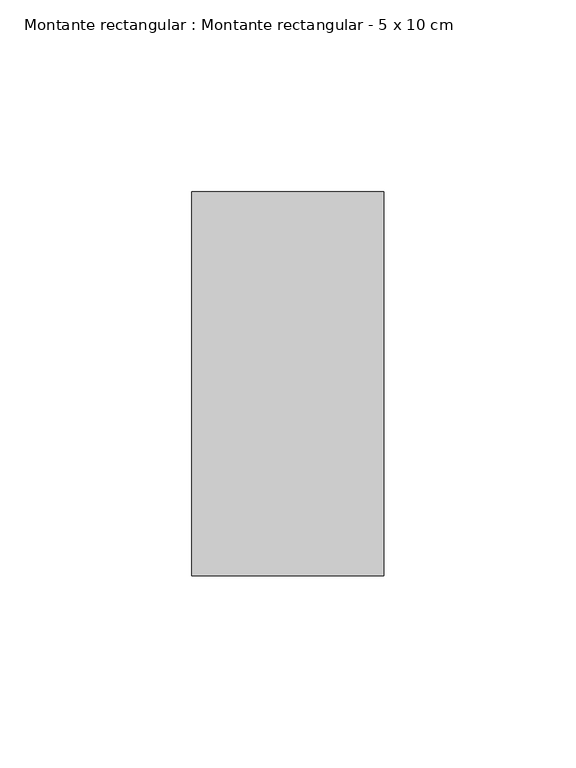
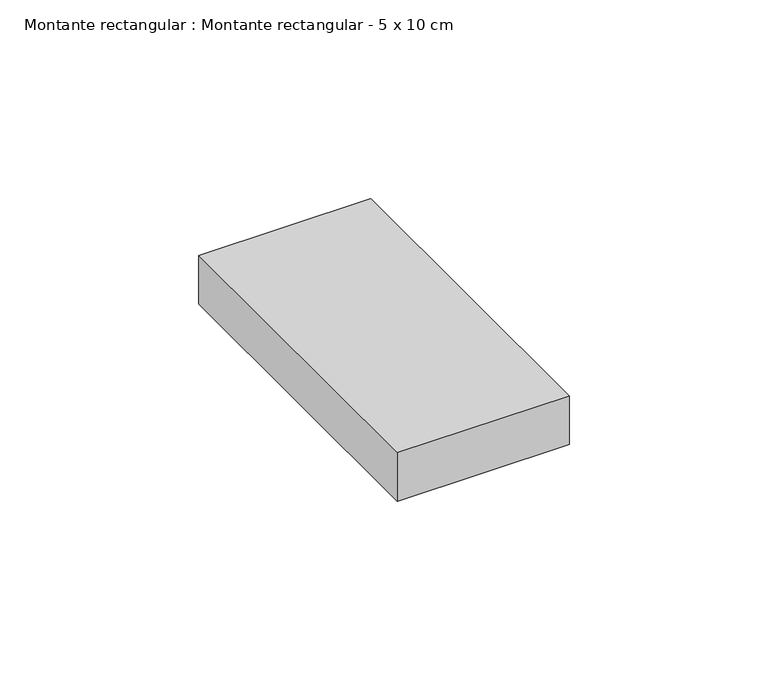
"""IFC4 building model written with IfcOpenShell, lengths in millimetres: member geometry, Montante rectangular : Montante rectangular - 5 x 10 cm."""

import ifcopenshell
import ifcopenshell.guid

model = None  # the IFC model being written
_history = None  # IfcOwnerHistory: only IFC2X3 demands one
_inside = {}  # id of a spatial element -> (the spatial element, [elements in it])
_under = {}  # id of a project, library or spatial element -> (it, [spatial elements below it])
_declared = {}  # id of a project -> (the project, [libraries it declares])
_typed = {}  # id of a type object -> (the type object, [elements of that type])
_made_of = {}  # id of a material, layer set ... -> (it, [elements and type objects made of it])


def new_model(schema):
    """Start an empty IFC model of exactly this schema.

    Asked for "IFC4X3", IfcOpenShell would pick the latest addendum, in which some entities
    have other attributes; the version numbers below select the first issue.
    IFC2X3 requires an IfcOwnerHistory on every rooted entity: one is made here for all.
    """
    global model, _history
    if schema == "IFC4X3":
        model = ifcopenshell.file(schema_version=(4, 3, 0, 0))
    else:
        model = ifcopenshell.file(schema=schema)
    _inside.clear()
    _under.clear()
    _declared.clear()
    _typed.clear()
    _made_of.clear()
    _history = None
    if model.schema == "IFC2X3":
        org = make("IfcOrganization", Name="unknown")
        user = make(
            "IfcPersonAndOrganization",
            ThePerson=make("IfcPerson", FamilyName="unknown"),
            TheOrganization=org,
        )
        app = make(
            "IfcApplication",
            ApplicationDeveloper=org,
            Version="unknown",
            ApplicationFullName="unknown",
            ApplicationIdentifier="unknown",
        )
        _history = make(
            "IfcOwnerHistory",
            OwningUser=user,
            OwningApplication=app,
            ChangeAction="ADDED",
            CreationDate=0,
        )
    return model


def make(cls, **values):
    """One entity of the class cls with the attributes given. An attribute that is None is left unset."""
    return model.create_entity(
        cls, **{name: value for name, value in values.items() if value is not None}
    )


def rooted(cls, **values):
    """An entity with a GlobalId (a new one), such as an element, a storey or a relation."""
    return make(cls, GlobalId=ifcopenshell.guid.new(), OwnerHistory=_history, **values)


def si_unit(unit_type, name, prefix=None):
    """IfcSIUnit, for example si_unit("LENGTHUNIT", "METRE", prefix="MILLI")."""
    return make("IfcSIUnit", UnitType=unit_type, Prefix=prefix, Name=name)


def assignment(units):
    """IfcUnitAssignment: the units of a project."""
    return None if units is None else make("IfcUnitAssignment", Units=units)


def point(xyz):
    """IfcCartesianPoint."""
    return None if xyz is None else make("IfcCartesianPoint", Coordinates=xyz)


def direction(xyz):
    """IfcDirection."""
    return None if xyz is None else make("IfcDirection", DirectionRatios=xyz)


def frame(location, z_axis=None, x_axis=None):
    """IfcAxis2Placement3D, a coordinate frame: its origin and axes. An axis left out is left unset."""
    return make(
        "IfcAxis2Placement3D",
        Location=point(location),
        Axis=direction(z_axis),
        RefDirection=direction(x_axis),
    )


def origin():
    """The frame at (0, 0, 0) with its axes left unset."""
    return frame((0.0, 0.0, 0.0))


def place(relative_to, where):
    """IfcLocalPlacement: puts the frame where relative to a parent placement (None: the world)."""
    return make(
        "IfcLocalPlacement", PlacementRelTo=relative_to, RelativePlacement=where
    )


def context(
    kind, dimensions, precision=None, world=None, true_north=None, identifier=None
):
    """IfcGeometricRepresentationContext, for example the 3D "Model" context."""
    return make(
        "IfcGeometricRepresentationContext",
        ContextIdentifier=identifier,
        ContextType=kind,
        CoordinateSpaceDimension=dimensions,
        Precision=precision,
        WorldCoordinateSystem=world,
        TrueNorth=true_north,
    )


def project(units=None, contexts=None):
    """IfcProject with its units and contexts."""
    return rooted(
        "IfcProject",
        Name="project",
        RepresentationContexts=contexts,
        UnitsInContext=assignment(units),
    )


def spatial(cls, under=None, at=None, **own):
    """A site, building, storey or space (cls), placed at a placement, below another one or the project."""
    s = rooted(cls, ObjectPlacement=at, **own)
    if under is not None:
        _under.setdefault(under.id(), (under, []))[1].append(s)
    return s


def polyline(points):
    """IfcPolyline through the points."""
    return make("IfcPolyline", Points=[point(p) for p in points])


def outline(outer, holes=None, kind="AREA"):
    """IfcArbitraryClosedProfileDef: a profile drawn as a closed curve; with holes, ...WithVoids."""
    if holes is None:
        return make("IfcArbitraryClosedProfileDef", ProfileType=kind, OuterCurve=outer)
    return make(
        "IfcArbitraryProfileDefWithVoids",
        ProfileType=kind,
        OuterCurve=outer,
        InnerCurves=holes,
    )


def extrude(swept, where, along, depth):
    """IfcExtrudedAreaSolid: the profile swept, set in the frame where, extruded along a direction by depth."""
    return make(
        "IfcExtrudedAreaSolid",
        SweptArea=swept,
        Position=where,
        ExtrudedDirection=direction(along),
        Depth=depth,
    )


def shape(context_of_items, identifier, shape_type, items):
    """IfcShapeRepresentation: the items that make up one representation, for example the "Body"."""
    return make(
        "IfcShapeRepresentation",
        ContextOfItems=context_of_items,
        RepresentationIdentifier=identifier,
        RepresentationType=shape_type,
        Items=items,
    )


def source(mapping_origin, context_of_items, identifier, shape_type, items):
    """IfcRepresentationMap: a shape defined once, which mapped items show again and again."""
    return make(
        "IfcRepresentationMap",
        MappingOrigin=mapping_origin,
        MappedRepresentation=shape(context_of_items, identifier, shape_type, items),
    )


def transform(
    local_origin,
    x_axis=None,
    y_axis=None,
    z_axis=None,
    scale=None,
    scale2=None,
    scale3=None,
    uniform=True,
):
    """IfcCartesianTransformationOperator3D, or its non-uniform kind. x_axis, y_axis, z_axis: its Axis1, 2, 3."""
    if uniform:
        return make(
            "IfcCartesianTransformationOperator3D",
            Axis1=direction(x_axis),
            Axis2=direction(y_axis),
            LocalOrigin=point(local_origin),
            Scale=scale,
            Axis3=direction(z_axis),
        )
    return make(
        "IfcCartesianTransformationOperator3DnonUniform",
        Axis1=direction(x_axis),
        Axis2=direction(y_axis),
        LocalOrigin=point(local_origin),
        Scale=scale,
        Axis3=direction(z_axis),
        Scale2=scale2,
        Scale3=scale3,
    )


def mapped(mapping_source, mapping_target):
    """IfcMappedItem: shows the shape of a source again, moved by a transform."""
    return make(
        "IfcMappedItem", MappingSource=mapping_source, MappingTarget=mapping_target
    )


def made_of(thing, what):
    """Note that an element or type object is made of a material, layer set ...; save() writes the relation."""
    if what is not None:
        _made_of.setdefault(what.id(), (what, []))[1].append(thing)
    return thing


def element(
    cls,
    number,
    at=None,
    inside=None,
    cuts=None,
    type_object=None,
    material=None,
    context=None,
    identifier="Body",
    shape_type=None,
    held_by="IfcProductDefinitionShape",
    body=None,
    shapes=None,
    **own,
):
    """One element of the class cls, such as IfcWall. Its Tag is "e" and its number.

    at: its placement. inside: the storey or other place that contains it. cuts: it is an
    opening in that element (IfcRelVoidsElement). A single representation is given by context,
    identifier, shape_type and body (its items); several are given by shapes. held_by: the class
    of the entity that holds the representations. save() writes the other relations.
    """
    e = rooted(cls, Tag="e%d" % number, ObjectPlacement=at, **own)
    if body is not None:
        shapes = [shape(context, identifier, shape_type, body)]
    if shapes is not None:
        e.Representation = make(held_by, Representations=shapes)
    if inside is not None:
        _inside.setdefault(inside.id(), (inside, []))[1].append(e)
    if cuts is not None:
        rooted(
            "IfcRelVoidsElement", RelatingBuildingElement=cuts, RelatedOpeningElement=e
        )
    if type_object is not None:
        _typed.setdefault(type_object.id(), (type_object, []))[1].append(e)
    return made_of(e, material)


def aggregate(whole, parts):
    """IfcRelAggregates: a whole, such as a stair, and the parts it consists of."""
    return rooted("IfcRelAggregates", RelatingObject=whole, RelatedObjects=parts)


def save(model, path):
    """Write the relations noted so far, then the file.

    IfcRelAggregates (storeys below a building ...), IfcRelContainedInSpatialStructure (elements
    in a storey), IfcRelDefinesByType, IfcRelAssociatesMaterial and IfcRelDeclares: one each for
    every whole, place, type object, material and project.
    """
    for whole, parts in _under.values():
        aggregate(whole, parts)
    for where, things in _inside.values():
        rooted(
            "IfcRelContainedInSpatialStructure",
            RelatedElements=things,
            RelatingStructure=where,
        )
    for kind, things in _typed.values():
        rooted("IfcRelDefinesByType", RelatedObjects=things, RelatingType=kind)
    for what, things in _made_of.values():
        rooted("IfcRelAssociatesMaterial", RelatedObjects=things, RelatingMaterial=what)
    for by, libraries in _declared.values():
        rooted("IfcRelDeclares", RelatingContext=by, RelatedDefinitions=libraries)
    model.write(path)


def montante_rectangular_montante_rectangular_5_x_10_cm_1f8af525(model_context):
    return source(origin(), model_context, "Body", "SweptSolid", [
        extrude(outline(polyline([(25.0, 50.0), (25.0, -50.0), (-25.0, -50.0), (-25.0, 50.0), (25.0, 50.0)])), frame((0.0, 0.0, -15.0), z_axis=(0.0, 0.0, 1.0), x_axis=(1.0, 0.0, 0.0)), (0.0, 0.0, 1.0), 15.0),
    ])


if __name__ == "__main__":
    model = new_model("IFC4")
    model_context = context("Model", 3, world=origin())
    ifc_project = project(units=[si_unit("LENGTHUNIT", "METRE", prefix="MILLI")], contexts=[model_context])
    site = spatial("IfcSite", under=ifc_project)
    building = spatial("IfcBuilding", under=site)
    placement = place(None, origin())
    montante_rectangular_montante_rectangular_5_x_10_cm_shape = montante_rectangular_montante_rectangular_5_x_10_cm_1f8af525(model_context)
    element("IfcMember", 1, ObjectType="Montante rectangular : Montante rectangular - 5 x 10 cm", at=placement, inside=building, context=model_context, shape_type="MappedRepresentation", body=[
        mapped(montante_rectangular_montante_rectangular_5_x_10_cm_shape, transform((0.0, 0.0, 0.0), x_axis=(1.0, 0.0, 0.0), y_axis=(0.0, 1.0, 0.0), z_axis=(0.0, 0.0, 1.0))),
    ])
    save(model, "model.ifc")
